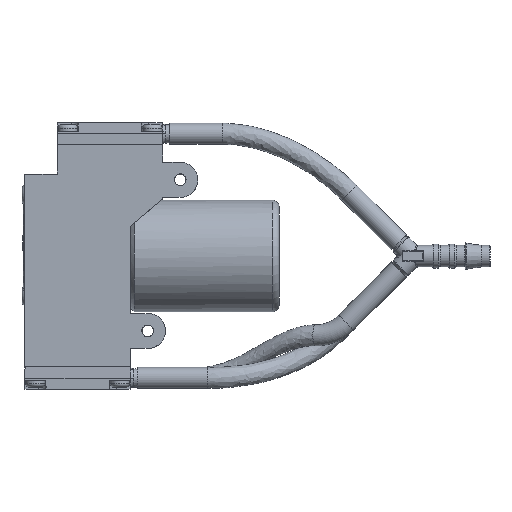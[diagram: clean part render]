
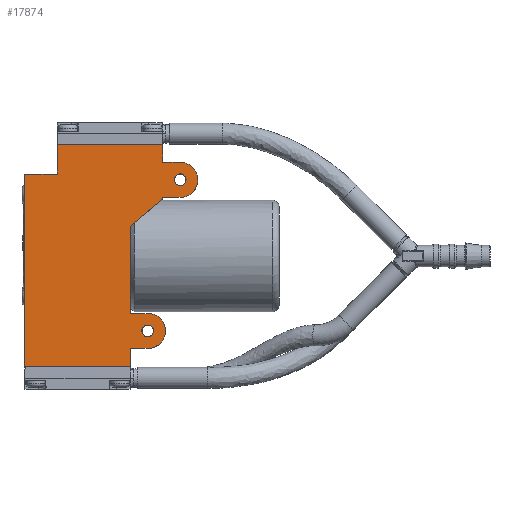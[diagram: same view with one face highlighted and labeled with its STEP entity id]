
A CAD part, top view. The second image highlights one B-rep face of the part: STEP entity #17874.
In plain terms, the highlighted planar face has unit normal (0, 0, 1).
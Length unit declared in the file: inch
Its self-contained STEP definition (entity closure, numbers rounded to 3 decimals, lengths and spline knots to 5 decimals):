
#108 = ORIENTED_EDGE ( 'NONE', *, *, #448, .F. ) ;
#448 = EDGE_CURVE ( 'NONE', #11292, #29563, #15481, .T. ) ;
#556 = DIRECTION ( 'NONE',  ( 1., 0., 0. ) ) ;
#1074 = DIRECTION ( 'NONE',  ( 0., -1., 0. ) ) ;
#2103 = CARTESIAN_POINT ( 'NONE',  ( 0.3622, 1.24409, 0.59055 ) ) ;
#2113 = DIRECTION ( 'NONE',  ( 0., -1., 0. ) ) ;
#2788 = ORIENTED_EDGE ( 'NONE', *, *, #9453, .F. ) ;
#2942 = EDGE_CURVE ( 'NONE', #29563, #7078, #3417, .T. ) ;
#3036 = DIRECTION ( 'NONE',  ( 0., 0., 1. ) ) ;
#3064 = CARTESIAN_POINT ( 'NONE',  ( -1.1811, -0.84252, 0.59055 ) ) ;
#3417 = LINE ( 'NONE', #25162, #8817 ) ;
#3525 = ORIENTED_EDGE ( 'NONE', *, *, #28742, .F. ) ;
#3609 = DIRECTION ( 'NONE',  ( 1., -0.009, 0. ) ) ;
#4047 = VERTEX_POINT ( 'NONE', #19534 ) ;
#4392 = EDGE_CURVE ( 'NONE', #29579, #29579, #7289, .T. ) ;
#4446 = LINE ( 'NONE', #19127, #26886 ) ;
#4855 = CARTESIAN_POINT ( 'NONE',  ( 0.3622, 0.6378, 0.59055 ) ) ;
#5187 = LINE ( 'NONE', #23828, #29059 ) ;
#5355 = FACE_OUTER_BOUND ( 'NONE', #18669, .T. ) ;
#5358 = DIRECTION ( 'NONE',  ( 0., 1., 0. ) ) ;
#5916 = ORIENTED_EDGE ( 'NONE', *, *, #13591, .T. ) ;
#6092 = VERTEX_POINT ( 'NONE', #28005 ) ;
#6174 = VERTEX_POINT ( 'NONE', #19079 ) ;
#6333 = DIRECTION ( 'NONE',  ( 0., -1., 0. ) ) ;
#6345 = CIRCLE ( 'NONE', #17894, 0.06633 ) ;
#6570 = ORIENTED_EDGE ( 'NONE', *, *, #13505, .T. ) ;
#6919 = CIRCLE ( 'NONE', #26228, 0.19685 ) ;
#7015 = ORIENTED_EDGE ( 'NONE', *, *, #24046, .T. ) ;
#7049 = ORIENTED_EDGE ( 'NONE', *, *, #13019, .F. ) ;
#7062 = DIRECTION ( 'NONE',  ( 0., 0., 1. ) ) ;
#7078 = VERTEX_POINT ( 'NONE', #11716 ) ;
#7139 = LINE ( 'NONE', #21929, #8590 ) ;
#7289 = CIRCLE ( 'NONE', #8276, 0.06633 ) ;
#7473 = VERTEX_POINT ( 'NONE', #29566 ) ;
#7520 = ORIENTED_EDGE ( 'NONE', *, *, #4392, .F. ) ;
#7790 = VERTEX_POINT ( 'NONE', #24006 ) ;
#8276 = AXIS2_PLACEMENT_3D ( 'NONE', #26117, #12257, #28428 ) ;
#8590 = VECTOR ( 'NONE', #28807, 39.37008 ) ;
#8602 = CARTESIAN_POINT ( 'NONE',  ( 0., -0.6437, 0.59055 ) ) ;
#8613 = LINE ( 'NONE', #13372, #20933 ) ;
#8651 = ORIENTED_EDGE ( 'NONE', *, *, #24850, .T. ) ;
#8817 = VECTOR ( 'NONE', #2113, 39.37008 ) ;
#8939 = VERTEX_POINT ( 'NONE', #19830 ) ;
#9154 = LINE ( 'NONE', #14986, #20745 ) ;
#9258 = DIRECTION ( 'NONE',  ( 1., 0., 0. ) ) ;
#9453 = EDGE_CURVE ( 'NONE', #22739, #26881, #7139, .T. ) ;
#10058 = CARTESIAN_POINT ( 'NONE',  ( -0.8189, 1.24409, 0.59055 ) ) ;
#10402 = CARTESIAN_POINT ( 'NONE',  ( 0.28391, 0.93657, 0.59055 ) ) ;
#10451 = EDGE_CURVE ( 'NONE', #7473, #7473, #6345, .T. ) ;
#10777 = CARTESIAN_POINT ( 'NONE',  ( 0.55906, 0.85236, 0.59055 ) ) ;
#11292 = VERTEX_POINT ( 'NONE', #12280 ) ;
#11716 = CARTESIAN_POINT ( 'NONE',  ( 0.3622, 1.05094, 0.59055 ) ) ;
#12049 = EDGE_CURVE ( 'NONE', #6174, #7078, #5187, .T. ) ;
#12257 = DIRECTION ( 'NONE',  ( 0., 0., 1. ) ) ;
#12280 = CARTESIAN_POINT ( 'NONE',  ( -0.8189, 1.24409, 0.59055 ) ) ;
#12283 = ORIENTED_EDGE ( 'NONE', *, *, #12049, .T. ) ;
#12414 = VERTEX_POINT ( 'NONE', #23098 ) ;
#12492 = LINE ( 'NONE', #16302, #19357 ) ;
#12730 = DIRECTION ( 'NONE',  ( 1., 0.017, 0. ) ) ;
#13019 = EDGE_CURVE ( 'NONE', #6092, #11292, #12492, .T. ) ;
#13096 = DIRECTION ( 'NONE',  ( -1., 0., 0. ) ) ;
#13229 = VERTEX_POINT ( 'NONE', #26423 ) ;
#13372 = CARTESIAN_POINT ( 'NONE',  ( -1.1811, -1.24409, 0.59055 ) ) ;
#13505 = EDGE_CURVE ( 'NONE', #13229, #12414, #17896, .T. ) ;
#13591 = EDGE_CURVE ( 'NONE', #22739, #7790, #14962, .T. ) ;
#14235 = VECTOR ( 'NONE', #1074, 39.37008 ) ;
#14256 = EDGE_CURVE ( 'NONE', #25510, #4047, #9154, .T. ) ;
#14349 = DIRECTION ( 'NONE',  ( 0., 0., 1. ) ) ;
#14725 = EDGE_CURVE ( 'NONE', #8939, #26881, #4446, .T. ) ;
#14869 = CARTESIAN_POINT ( 'NONE',  ( 0.3622, 0.84252, 0.59055 ) ) ;
#14962 = LINE ( 'NONE', #4855, #27322 ) ;
#14986 = CARTESIAN_POINT ( 'NONE',  ( 0.3622, 0.65724, 0.59055 ) ) ;
#15191 = ORIENTED_EDGE ( 'NONE', *, *, #27460, .F. ) ;
#15481 = LINE ( 'NONE', #10058, #27107 ) ;
#15534 = AXIS2_PLACEMENT_3D ( 'NONE', #28235, #14349, #556 ) ;
#15846 = CARTESIAN_POINT ( 'NONE',  ( 0., -1.0374, 0.59055 ) ) ;
#15866 = ORIENTED_EDGE ( 'NONE', *, *, #10451, .F. ) ;
#16302 = CARTESIAN_POINT ( 'NONE',  ( -0.8189, 1.06693, 0.59055 ) ) ;
#16811 = DIRECTION ( 'NONE',  ( -1., 0.009, 0. ) ) ;
#16858 = PLANE ( 'NONE',  #21061 ) ;
#17660 = FACE_BOUND ( 'NONE', #29918, .T. ) ;
#17874 = ADVANCED_FACE ( 'NONE', ( #5355, #17660, #23823 ), #16858, .T. ) ;
#17894 = AXIS2_PLACEMENT_3D ( 'NONE', #20921, #7062, #23245 ) ;
#17896 = LINE ( 'NONE', #15846, #23324 ) ;
#18091 = LINE ( 'NONE', #3064, #29670 ) ;
#18180 = VECTOR ( 'NONE', #12730, 39.37008 ) ;
#18669 = EDGE_LOOP ( 'NONE', ( #5916, #24826, #25563, #8651, #12283, #21006, #108, #7049, #26571, #3525, #21661, #15191, #6570, #7015, #19730, #2788 ) ) ;
#18913 = LINE ( 'NONE', #10402, #18180 ) ;
#19079 = CARTESIAN_POINT ( 'NONE',  ( 0.56077, 1.04921, 0.59055 ) ) ;
#19127 = CARTESIAN_POINT ( 'NONE',  ( 0., -0.6437, 0.59055 ) ) ;
#19181 = DIRECTION ( 'NONE',  ( 1., 0., 0. ) ) ;
#19230 = VERTEX_POINT ( 'NONE', #25898 ) ;
#19357 = VECTOR ( 'NONE', #20859, 39.37008 ) ;
#19534 = CARTESIAN_POINT ( 'NONE',  ( 0.55732, 0.65552, 0.59055 ) ) ;
#19730 = ORIENTED_EDGE ( 'NONE', *, *, #14725, .T. ) ;
#19830 = CARTESIAN_POINT ( 'NONE',  ( 0.20029, -0.64545, 0.59055 ) ) ;
#20207 = CARTESIAN_POINT ( 'NONE',  ( 0., -0.84252, 0.59055 ) ) ;
#20398 = CARTESIAN_POINT ( 'NONE',  ( 0., -1.24409, 0.59055 ) ) ;
#20704 = EDGE_CURVE ( 'NONE', #27531, #22673, #8613, .T. ) ;
#20745 = VECTOR ( 'NONE', #3609, 39.37008 ) ;
#20859 = DIRECTION ( 'NONE',  ( 0., 1., 0. ) ) ;
#20921 = CARTESIAN_POINT ( 'NONE',  ( 0.55906, 0.85236, 0.59055 ) ) ;
#20933 = VECTOR ( 'NONE', #27255, 39.37008 ) ;
#21006 = ORIENTED_EDGE ( 'NONE', *, *, #2942, .F. ) ;
#21037 = DIRECTION ( 'NONE',  ( 0.766, 0.643, 0. ) ) ;
#21061 = AXIS2_PLACEMENT_3D ( 'NONE', #28403, #3036, #19181 ) ;
#21661 = ORIENTED_EDGE ( 'NONE', *, *, #20704, .F. ) ;
#21729 = CARTESIAN_POINT ( 'NONE',  ( -1.1811, -1.24409, 0.59055 ) ) ;
#21929 = CARTESIAN_POINT ( 'NONE',  ( 0., -0.84252, 0.59055 ) ) ;
#22147 = VECTOR ( 'NONE', #6333, 39.37008 ) ;
#22673 = VERTEX_POINT ( 'NONE', #21729 ) ;
#22739 = VERTEX_POINT ( 'NONE', #24366 ) ;
#23098 = CARTESIAN_POINT ( 'NONE',  ( 0.20029, -1.03565, 0.59055 ) ) ;
#23245 = DIRECTION ( 'NONE',  ( 1., 0., 0. ) ) ;
#23324 = VECTOR ( 'NONE', #29738, 39.37008 ) ;
#23644 = EDGE_CURVE ( 'NONE', #25510, #7790, #26551, .T. ) ;
#23823 = FACE_BOUND ( 'NONE', #25440, .T. ) ;
#23828 = CARTESIAN_POINT ( 'NONE',  ( 0.3622, 1.05094, 0.59055 ) ) ;
#24006 = CARTESIAN_POINT ( 'NONE',  ( 0.3622, 0.6378, 0.59055 ) ) ;
#24046 = EDGE_CURVE ( 'NONE', #12414, #8939, #27263, .T. ) ;
#24204 = EDGE_CURVE ( 'NONE', #19230, #6092, #18913, .T. ) ;
#24366 = CARTESIAN_POINT ( 'NONE',  ( 0., 0.33387, 0.59055 ) ) ;
#24826 = ORIENTED_EDGE ( 'NONE', *, *, #23644, .F. ) ;
#24850 = EDGE_CURVE ( 'NONE', #4047, #6174, #6919, .T. ) ;
#25162 = CARTESIAN_POINT ( 'NONE',  ( 0.3622, 0.84252, 0.59055 ) ) ;
#25440 = EDGE_LOOP ( 'NONE', ( #7520 ) ) ;
#25510 = VERTEX_POINT ( 'NONE', #25906 ) ;
#25563 = ORIENTED_EDGE ( 'NONE', *, *, #14256, .T. ) ;
#25898 = CARTESIAN_POINT ( 'NONE',  ( -1.1811, 0.911, 0.59055 ) ) ;
#25906 = CARTESIAN_POINT ( 'NONE',  ( 0.3622, 0.65724, 0.59055 ) ) ;
#26117 = CARTESIAN_POINT ( 'NONE',  ( 0.19685, -0.84055, 0.59055 ) ) ;
#26167 = DIRECTION ( 'NONE',  ( -1., 0.009, 0. ) ) ;
#26228 = AXIS2_PLACEMENT_3D ( 'NONE', #10777, #26978, #13096 ) ;
#26423 = CARTESIAN_POINT ( 'NONE',  ( 0., -1.0374, 0.59055 ) ) ;
#26551 = LINE ( 'NONE', #14869, #14235 ) ;
#26571 = ORIENTED_EDGE ( 'NONE', *, *, #24204, .F. ) ;
#26881 = VERTEX_POINT ( 'NONE', #8602 ) ;
#26886 = VECTOR ( 'NONE', #16811, 39.37008 ) ;
#26978 = DIRECTION ( 'NONE',  ( 0., 0., 1. ) ) ;
#27070 = CARTESIAN_POINT ( 'NONE',  ( 0.26319, -0.84055, 0.59055 ) ) ;
#27107 = VECTOR ( 'NONE', #9258, 39.37008 ) ;
#27255 = DIRECTION ( 'NONE',  ( -1., 0., 0. ) ) ;
#27263 = CIRCLE ( 'NONE', #15534, 0.19511 ) ;
#27322 = VECTOR ( 'NONE', #21037, 39.37008 ) ;
#27460 = EDGE_CURVE ( 'NONE', #13229, #27531, #28318, .T. ) ;
#27531 = VERTEX_POINT ( 'NONE', #20398 ) ;
#28005 = CARTESIAN_POINT ( 'NONE',  ( -0.8189, 0.91732, 0.59055 ) ) ;
#28235 = CARTESIAN_POINT ( 'NONE',  ( 0.19859, -0.84055, 0.59055 ) ) ;
#28318 = LINE ( 'NONE', #20207, #22147 ) ;
#28403 = CARTESIAN_POINT ( 'NONE',  ( 0.31496, -0.84252, 0.59055 ) ) ;
#28428 = DIRECTION ( 'NONE',  ( 1., 0., 0. ) ) ;
#28742 = EDGE_CURVE ( 'NONE', #22673, #19230, #18091, .T. ) ;
#28807 = DIRECTION ( 'NONE',  ( 0., -1., 0. ) ) ;
#29059 = VECTOR ( 'NONE', #26167, 39.37008 ) ;
#29563 = VERTEX_POINT ( 'NONE', #2103 ) ;
#29566 = CARTESIAN_POINT ( 'NONE',  ( 0.62539, 0.85236, 0.59055 ) ) ;
#29579 = VERTEX_POINT ( 'NONE', #27070 ) ;
#29670 = VECTOR ( 'NONE', #5358, 39.37008 ) ;
#29738 = DIRECTION ( 'NONE',  ( 1., 0.009, 0. ) ) ;
#29918 = EDGE_LOOP ( 'NONE', ( #15866 ) ) ;
